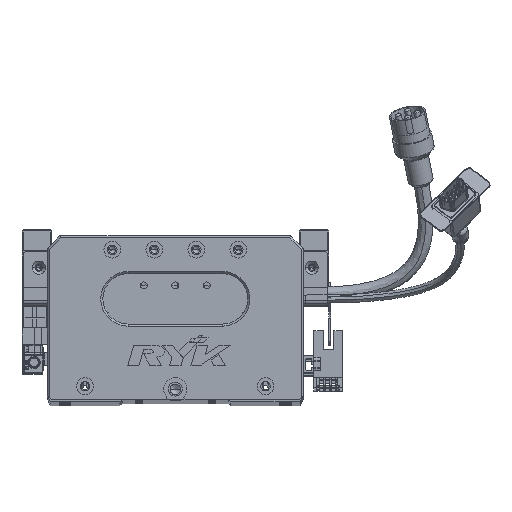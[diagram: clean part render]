
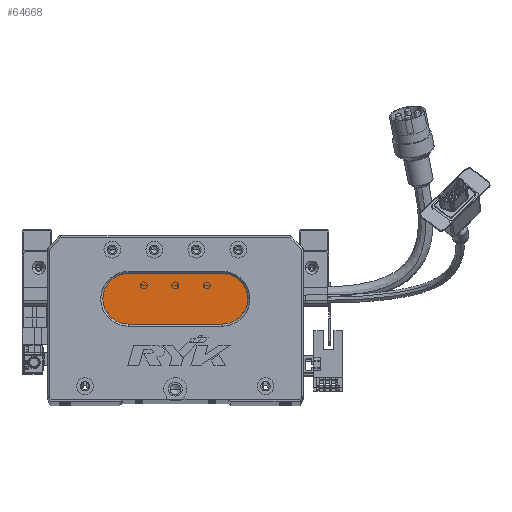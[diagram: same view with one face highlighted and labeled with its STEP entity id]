
A CAD part, top view. The second image highlights one B-rep face of the part: STEP entity #64668.
In plain terms, the highlighted planar face has unit normal (0, 0, 1) as drawn and (0, 0, -1) by its records, which use the part's own axes.
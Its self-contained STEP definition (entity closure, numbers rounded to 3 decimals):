
#2176 = DIRECTION ( 'NONE',  ( -1., 0., 0. ) ) ;
#5846 = VERTEX_POINT ( 'NONE', #66505 ) ;
#6412 = ORIENTED_EDGE ( 'NONE', *, *, #66337, .T. ) ;
#6681 = CIRCLE ( 'NONE', #44762, 12. ) ;
#6960 = VECTOR ( 'NONE', #48583, 1000. ) ;
#11387 = AXIS2_PLACEMENT_3D ( 'NONE', #47188, #80670, #2176 ) ;
#15321 = AXIS2_PLACEMENT_3D ( 'NONE', #22233, #67627, #29060 ) ;
#16592 = PLANE ( 'NONE',  #15321 ) ;
#17751 = CARTESIAN_POINT ( 'NONE',  ( 83.5, 36., 13. ) ) ;
#18027 = EDGE_CURVE ( 'NONE', #36530, #70098, #73051, .T. ) ;
#20911 = VERTEX_POINT ( 'NONE', #39162 ) ;
#22233 = CARTESIAN_POINT ( 'NONE',  ( 83.5, 48., 13. ) ) ;
#25180 = ORIENTED_EDGE ( 'NONE', *, *, #18027, .T. ) ;
#26954 = EDGE_CURVE ( 'NONE', #5846, #44382, #59594, .T. ) ;
#27128 = ORIENTED_EDGE ( 'NONE', *, *, #67346, .T. ) ;
#28810 = DIRECTION ( 'NONE',  ( 0., 0., -1. ) ) ;
#29060 = DIRECTION ( 'NONE',  ( -1., 0., 0. ) ) ;
#31175 = FACE_OUTER_BOUND ( 'NONE', #39106, .T. ) ;
#32340 = AXIS2_PLACEMENT_3D ( 'NONE', #72613, #81125, #48505 ) ;
#35897 = DIRECTION ( 'NONE',  ( -1., 0., 0. ) ) ;
#36174 = CIRCLE ( 'NONE', #11387, 12. ) ;
#36530 = VERTEX_POINT ( 'NONE', #47395 ) ;
#36847 = CARTESIAN_POINT ( 'NONE',  ( 83.5, 60., 13. ) ) ;
#38296 = CARTESIAN_POINT ( 'NONE',  ( 38.5, 36., 13. ) ) ;
#39106 = EDGE_LOOP ( 'NONE', ( #6412, #25180, #27128, #69677, #51751 ) ) ;
#39162 = CARTESIAN_POINT ( 'NONE',  ( 26.5, 48., 13. ) ) ;
#44382 = VERTEX_POINT ( 'NONE', #36847 ) ;
#44762 = AXIS2_PLACEMENT_3D ( 'NONE', #67668, #28810, #35897 ) ;
#47188 = CARTESIAN_POINT ( 'NONE',  ( 38.5, 48., 13. ) ) ;
#47395 = CARTESIAN_POINT ( 'NONE',  ( 83.5, 36., 13. ) ) ;
#48505 = DIRECTION ( 'NONE',  ( -1., 0., 0. ) ) ;
#48583 = DIRECTION ( 'NONE',  ( 1., 0., 0. ) ) ;
#51751 = ORIENTED_EDGE ( 'NONE', *, *, #26954, .T. ) ;
#52383 = EDGE_CURVE ( 'NONE', #20911, #5846, #36174, .T. ) ;
#52708 = VECTOR ( 'NONE', #57124, 1000. ) ;
#55639 = CARTESIAN_POINT ( 'NONE',  ( 83.5, 60., 13. ) ) ;
#57124 = DIRECTION ( 'NONE',  ( -1., 0., 0. ) ) ;
#59594 = LINE ( 'NONE', #55639, #6960 ) ;
#64668 = ADVANCED_FACE ( 'NONE', ( #31175 ), #16592, .T. ) ;
#66337 = EDGE_CURVE ( 'NONE', #44382, #36530, #6681, .T. ) ;
#66505 = CARTESIAN_POINT ( 'NONE',  ( 38.5, 60., 13. ) ) ;
#67346 = EDGE_CURVE ( 'NONE', #70098, #20911, #78468, .T. ) ;
#67627 = DIRECTION ( 'NONE',  ( 0., 0., -1. ) ) ;
#67668 = CARTESIAN_POINT ( 'NONE',  ( 83.5, 48., 13. ) ) ;
#69677 = ORIENTED_EDGE ( 'NONE', *, *, #52383, .T. ) ;
#70098 = VERTEX_POINT ( 'NONE', #38296 ) ;
#72613 = CARTESIAN_POINT ( 'NONE',  ( 38.5, 48., 13. ) ) ;
#73051 = LINE ( 'NONE', #17751, #52708 ) ;
#78468 = CIRCLE ( 'NONE', #32340, 12. ) ;
#80670 = DIRECTION ( 'NONE',  ( 0., 0., -1. ) ) ;
#81125 = DIRECTION ( 'NONE',  ( 0., 0., -1. ) ) ;
